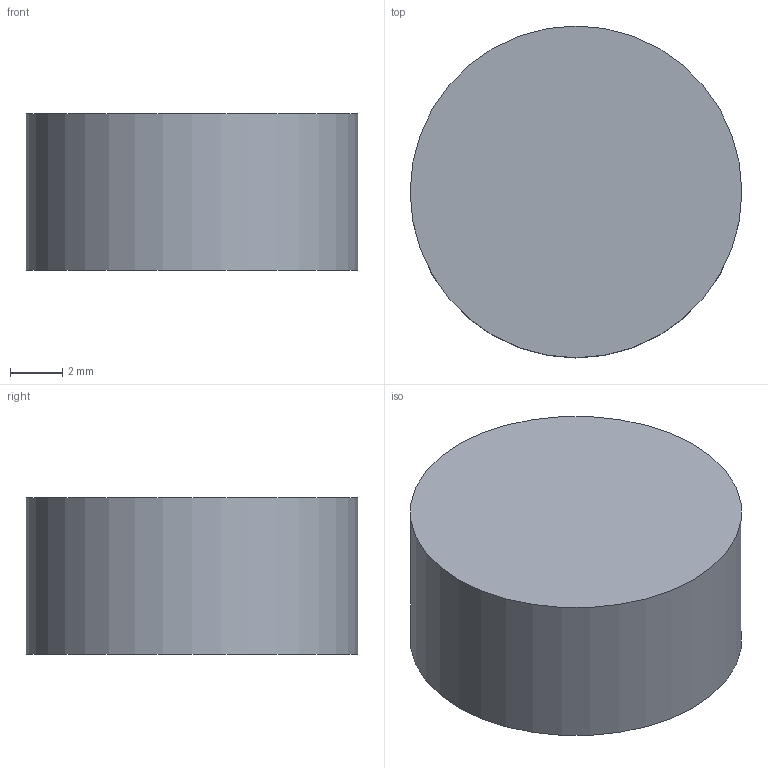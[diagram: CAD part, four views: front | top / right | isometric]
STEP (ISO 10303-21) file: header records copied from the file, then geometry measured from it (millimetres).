
FILE_DESCRIPTION(('Open CASCADE Model'),'2;1');
FILE_NAME('Open CASCADE Shape Model','2026-11-10T18:04:08',('Author'),( 'Open CASCADE'),'Open CASCADE STEP processor 7.9','Open CASCADE 7.9' ,'Unknown');
FILE_SCHEMA(('AUTOMOTIVE_DESIGN { 1 0 10303 214 1 1 1 1 }'));
Length unit declared in the file: millimetre
Products named in the file (1): Open CASCADE STEP translator 7.9 14
Bounding box: 12.7 x 12.7 x 6 mm (x, y, z)
Volume: 760.1 mm3; surface area: 492.7 mm2
Topology: 1 solids, 1 shells, 3 faces, 3 edges, 2 vertices
Faces by surface type: plane 2, cylinder 1
Full cylindrical faces by diameter (mm): 12.7 x1
Entity records: 108 total; most frequent: DIRECTION 19, CARTESIAN_POINT 15, AXIS2_PLACEMENT_3D 6, ORIENTED_EDGE 6, PCURVE 6, DEFINITIONAL_REPRESENTATION 6, LINE 5, VECTOR 5
